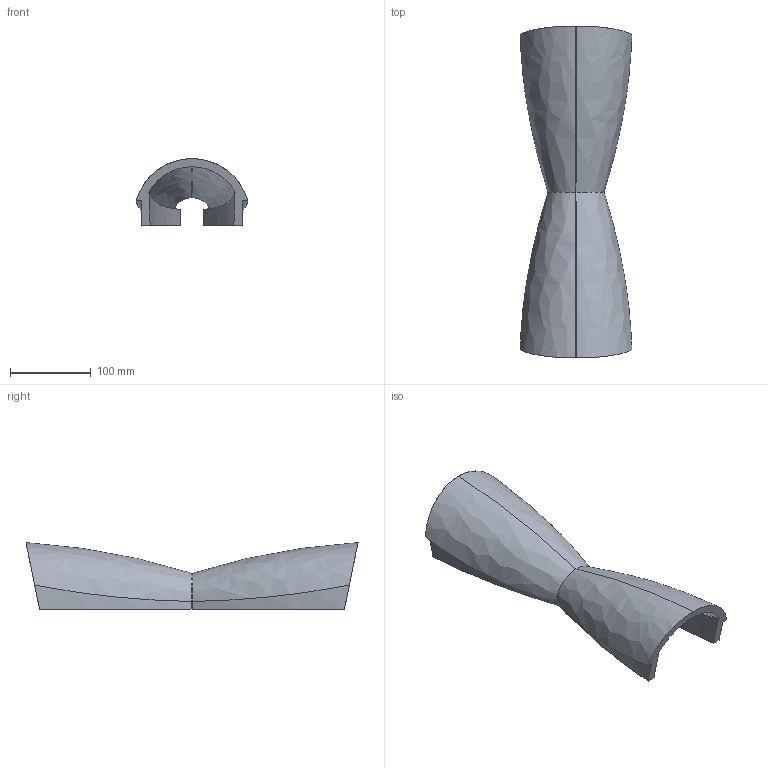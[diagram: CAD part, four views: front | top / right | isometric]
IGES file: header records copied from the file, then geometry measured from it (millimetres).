
Start section: SolidWorks IGES file using analytic representation for surfaces
Global section: file name: C:\Users\Stagiaire\Desktop\Rendu 3D\TOMTOM\1871_TOMTOM.IGS; native system: SolidWorks 2014; preprocessor: SolidWorks 2014; author: Stagiaire; date: 140922.113528; units: millimetre
Bounding box: 137.74 x 410 x 82.5 mm (x, y, z)
Surface area: 171687 mm2 (no closed solid volume)
Topology: 0 solids, 0 shells, 28 faces, 682 edges, 682 vertices
Faces by surface type: bspline 20, revolution 8
